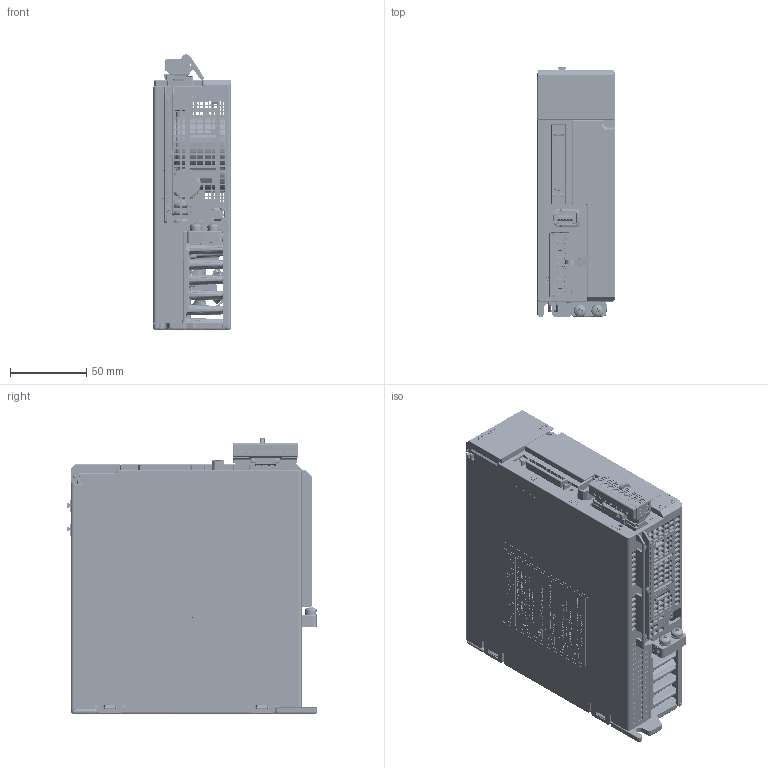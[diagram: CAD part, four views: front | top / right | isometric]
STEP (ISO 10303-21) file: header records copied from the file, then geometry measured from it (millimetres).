
FILE_DESCRIPTION(/* description */ (''),/* implementation_level */ '2;1');
FILE_NAME(/* name */ 'E:\周桃园\SDC\3D\SDC组立.stp',/* time_stamp */ '2021-05-27T16:16:05+08:00',/* author */ ('06207'),/* organization */ (''),/* preprocessor_version */ 'ST-DEVELOPER v17',/* originating_system */ 'Autodesk Inventor 2019',/* authorisation */ '');
FILE_SCHEMA (('AUTOMOTIVE_DESIGN { 1 0 10303 214 3 1 1 }'));
Products named in the file (47): SDC组立20200325; SDC框架主回路基板200325; SDC操作基板组立; SDC操作基板ipt; 5LED; DAVID_HCR1-50SMZ_GS_6_CN1; RJ45 1X2 56LED-S 8P8C JACK; IGBT_Microsemi_GBJ25K_90; 6MBP30VSC060-50; ELH2GM561R35KT; EI25变压器; EI25变压器骨架; EI-25铁芯; SQM-5W; RXFB-4-20W-100RJ; HF32FV; M4x8; local.AFNOR.84.2.8-M4弹垫; local.AFNOR.25.56.8-M4x8; local.AFNOR.80.50.8; FB0电解电容; 电解电容_VZH-25V471MH10-R-SS840T30747
A; PSS30S92F6-AG; SMP-02V-BC; MINI_USB_5P; SC-10P; E80贴片电解电容; 风扇线插座_SS880P11012; 3010-B风扇装配体; 3010B-B（S）扇叶; 3010A-B扇框; SDC外壳200606; 操作器上盖滑盖式; LED灯; 警示铭板; 制造铭板; 9EDGK-5.0-08P-1Y-00A; 9EDGRC-5.0-08P-1Y-00A; 凸波吸收器; 突波电容_JVR20N102K11P60_SS839P00259B ...
Assembly tree (57 placements, depth 3):
  SDC组立20200325
    SDC框架主回路基板200325
    SDC操作基板组立
      SDC操作基板ipt
      5LED
    DAVID_HCR1-50SMZ_GS_6_CN1
    RJ45 1X2 56LED-S 8P8C JACK
    IGBT_Microsemi_GBJ25K_90
    6MBP30VSC060-50
    ELH2GM561R35KT  x2
    EI25变压器
      EI25变压器骨架
      EI-25铁芯  x2
    SQM-5W
    RXFB-4-20W-100RJ
    HF32FV
    M4x8  x2
      local.AFNOR.84.2.8-M4弹垫
      local.AFNOR.25.56.8-M4x8
      local.AFNOR.80.50.8
    E80贴片电解电容  x5
    FB0电解电容
    电解电容_VZH-25V471MH10-R-SS840T30747
A
    PSS30S92F6-AG
    SMP-02V-BC
    MINI_USB_5P
    SC-10P
    风扇线插座_SS880P11012
    3010-B风扇装配体
      3010B-B（S）扇叶
      3010A-B扇框
    SDC外壳200606
    操作器上盖滑盖式
    LED灯
    警示铭板
    制造铭板
    9EDGK-5.0-08P-1Y-00A
    9EDGRC-5.0-08P-1Y-00A
    凸波吸收器  x4
    突波电容_JVR20N102K11P60_SS839P00259B
    康杨_PJR-45(B)_SS980P13007  x2
    jack-t3005008pin(1)
    VIPER26L
    plug-t3005008pin_01(1)
    塑胶零件1
    散热器_2020_10_26V4
    跳线
Bounding box: 51.2 x 164.3 x 181 mm (x, y, z)
Volume: 455176.7 mm3; surface area: 374455 mm2
Topology: 54 solids, 553 shells, 21688 faces, 59949 edges, 39731 vertices
Faces by surface type: plane 14105, bspline 3814, cylinder 3160, sphere 267, torus 190, cone 152
Full cylindrical faces by diameter (mm): 0.6 x8, 0.619 x2, 0.7 x13, 0.8 x2, 1 x33, 1.2 x2, 1.494 x1, 1.5 x7, 1.683 x1, 1.8 x4, 1.992 x2, 2 x4, 2.2 x1, 2.5 x4, 2.6 x2, 2.7 x3, 3 x8, 3.2 x6, 3.25 x2, 3.5 x7, 3.621 x2, 3.8 x1, 3.9 x1, 4 x9, 4.3 x10, 5 x5, 5.5 x2, 6 x1, 6.1 x2, 6.3 x10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
Entity records: 783339 total; most frequent: CARTESIAN_POINT 252064, ORIENTED_EDGE 115833, DIRECTION 95761, EDGE_CURVE 59156, LINE 44507, VECTOR 44507, VERTEX_POINT 39267, AXIS2_PLACEMENT_3D 25627
